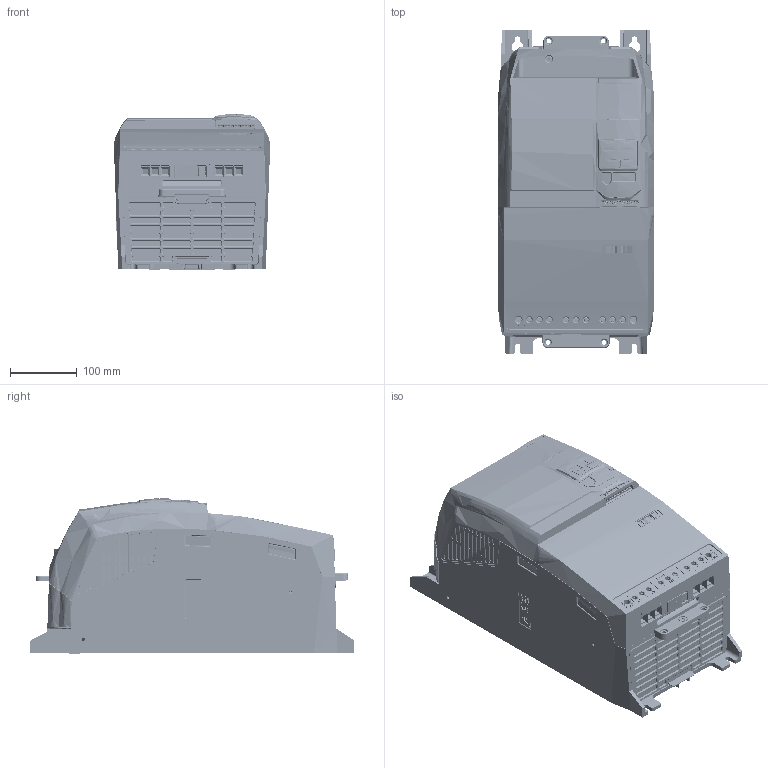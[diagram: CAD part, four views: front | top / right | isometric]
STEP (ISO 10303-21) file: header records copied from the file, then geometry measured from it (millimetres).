
FILE_DESCRIPTION (( 'STEP AP203' ), '1' );
FILE_NAME ('E3.IP20.SIZE5 (ENVELOPE).STEP', '2020-02-06T11:35:02', ( '' ), ( '' ), 'SwSTEP 2.0', 'SolidWorks 2020', '' );
FILE_SCHEMA (( 'CONFIG_CONTROL_DESIGN' ));
Products named in the file (1): E3.IP20.SIZE5 (ENVELOPE)
Bounding box: 233.97 x 486.12 x 233.07 mm (x, y, z)
Volume: 15149551.8 mm3; surface area: 1783996.1 mm2
Topology: 15 solids, 67 shells, 9170 faces, 24701 edges, 15997 vertices
Faces by surface type: plane 5344, bspline 2467, cylinder 1196, cone 126, torus 34, sphere 3
Full cylindrical faces by diameter (mm): 2.2 x4, 3.3 x2, 3.5 x11, 3.6 x11, 3.7 x11, 4 x2, 4.2 x6, 5 x2, 6.8 x4, 7.1 x9, 7.5 x7, 7.6 x9, 9 x2, 9.5 x3, 12 x2, 14 x2, 64.7 x2, 66.7 x1
Entity records: 560517 total; most frequent: CARTESIAN_POINT 365802, ORIENTED_EDGE 48928, DIRECTION 25975, EDGE_CURVE 24464, VERTEX_POINT 15934, B_SPLINE_CURVE_WITH_KNOTS 12636, LINE 10571, VECTOR 10571
